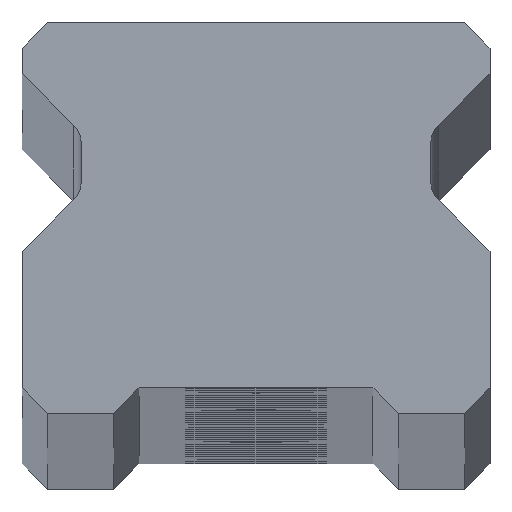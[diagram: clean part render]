
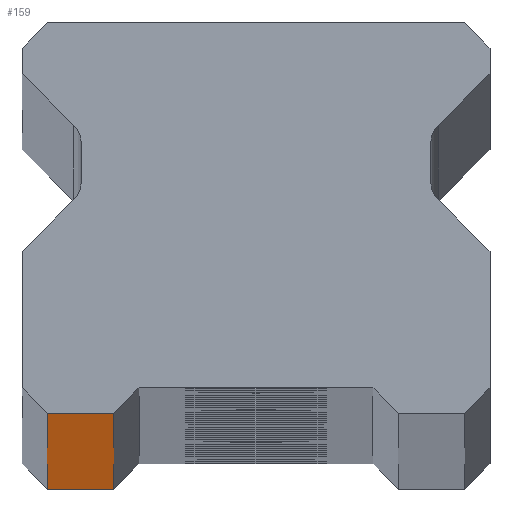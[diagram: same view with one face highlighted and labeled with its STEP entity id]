
A CAD part, top view. The second image highlights one B-rep face of the part: STEP entity #159.
In plain terms, the highlighted planar face has unit normal (0, -1, 0).
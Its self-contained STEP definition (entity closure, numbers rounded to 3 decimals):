
#159 = ADVANCED_FACE ( 'NONE', ( #1653 ), #4735, .F. ) ;
#173 = CARTESIAN_POINT ( 'NONE',  ( 11.5, 0., 1070. ) ) ;
#288 = VECTOR ( 'NONE', #4187, 1000. ) ;
#352 = EDGE_CURVE ( 'NONE', #2994, #2459, #6191, .T. ) ;
#479 = LINE ( 'NONE', #173, #5592 ) ;
#490 = AXIS2_PLACEMENT_3D ( 'NONE', #1791, #5231, #2279 ) ;
#556 = DIRECTION ( 'NONE',  ( 0., 0., -1. ) ) ;
#828 = ORIENTED_EDGE ( 'NONE', *, *, #2394, .F. ) ;
#1007 = EDGE_LOOP ( 'NONE', ( #5608, #3863, #828, #1834 ) ) ;
#1268 = CARTESIAN_POINT ( 'NONE',  ( -10.25, 0., -1070. ) ) ;
#1550 = CARTESIAN_POINT ( 'NONE',  ( -10.25, 0., 1070. ) ) ;
#1653 = FACE_OUTER_BOUND ( 'NONE', #1007, .T. ) ;
#1791 = CARTESIAN_POINT ( 'NONE',  ( 11.5, 0., 1070. ) ) ;
#1834 = ORIENTED_EDGE ( 'NONE', *, *, #352, .T. ) ;
#2108 = CARTESIAN_POINT ( 'NONE',  ( -7., 0., 1070. ) ) ;
#2279 = DIRECTION ( 'NONE',  ( -1., 0., 0. ) ) ;
#2329 = LINE ( 'NONE', #2699, #288 ) ;
#2394 = EDGE_CURVE ( 'NONE', #2994, #2688, #479, .T. ) ;
#2448 = CARTESIAN_POINT ( 'NONE',  ( -10.25, 0., 1070. ) ) ;
#2459 = VERTEX_POINT ( 'NONE', #1268 ) ;
#2688 = VERTEX_POINT ( 'NONE', #2108 ) ;
#2699 = CARTESIAN_POINT ( 'NONE',  ( 11.5, 0., -1070. ) ) ;
#2940 = CARTESIAN_POINT ( 'NONE',  ( -7., 0., -1070. ) ) ;
#2994 = VERTEX_POINT ( 'NONE', #2448 ) ;
#3146 = DIRECTION ( 'NONE',  ( 1., 0., 0. ) ) ;
#3166 = EDGE_CURVE ( 'NONE', #3606, #2688, #3727, .T. ) ;
#3352 = DIRECTION ( 'NONE',  ( 0., 0., 1. ) ) ;
#3606 = VERTEX_POINT ( 'NONE', #4065 ) ;
#3727 = LINE ( 'NONE', #2940, #6192 ) ;
#3863 = ORIENTED_EDGE ( 'NONE', *, *, #3166, .T. ) ;
#3920 = EDGE_CURVE ( 'NONE', #2459, #3606, #2329, .T. ) ;
#4065 = CARTESIAN_POINT ( 'NONE',  ( -7., 0., -1070. ) ) ;
#4187 = DIRECTION ( 'NONE',  ( 1., 0., 0. ) ) ;
#4735 = PLANE ( 'NONE',  #490 ) ;
#5231 = DIRECTION ( 'NONE',  ( 0., 1., 0. ) ) ;
#5264 = VECTOR ( 'NONE', #556, 1000. ) ;
#5592 = VECTOR ( 'NONE', #3146, 1000. ) ;
#5608 = ORIENTED_EDGE ( 'NONE', *, *, #3920, .T. ) ;
#6191 = LINE ( 'NONE', #1550, #5264 ) ;
#6192 = VECTOR ( 'NONE', #3352, 1000. ) ;
